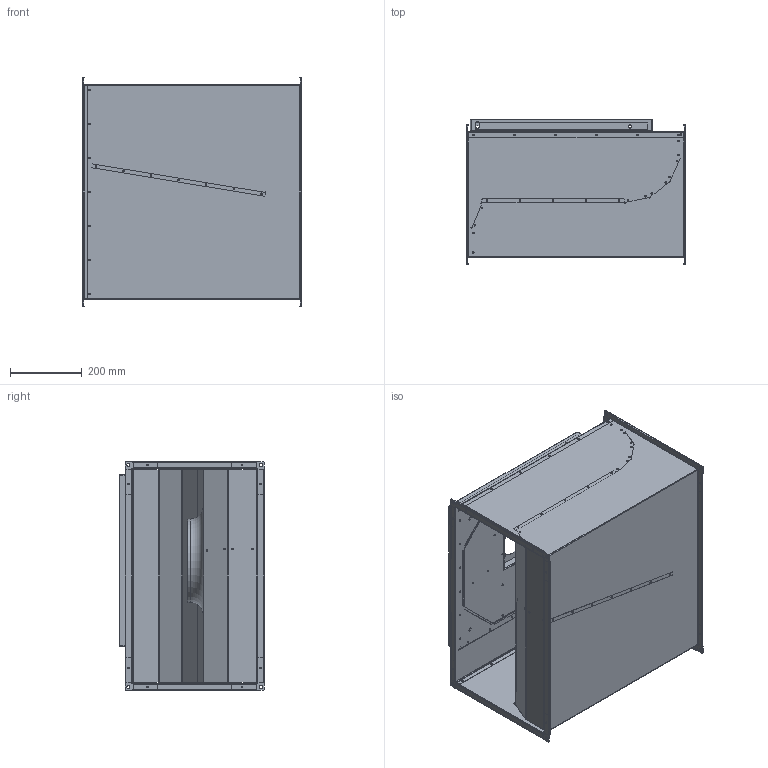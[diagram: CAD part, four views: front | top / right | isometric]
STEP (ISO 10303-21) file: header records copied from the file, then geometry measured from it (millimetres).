
FILE_DESCRIPTION (( 'STEP AP203' ), '1' );
FILE_NAME ('131309-00_KVR06035E430.STEP', '2015-05-08T11:15:03', ( '' ), ( '' ), 'SwSTEP 2.0', 'SolidWorks 2012', '' );
FILE_SCHEMA (( 'CONFIG_CONTROL_DESIGN' ));
Length unit declared in the file: millimetre
Products named in the file (1): 131309-00_KVR06035E430
Bounding box: 610 x 403.2 x 638.4 mm (x, y, z)
Surface area: 4081070 mm2 (no closed solid volume)
Topology: 0 solids, 80 shells, 840 faces, 2830 edges, 1996 vertices
Faces by surface type: cylinder 539, plane 287, bspline 10, torus 4
Entity records: 32703 total; most frequent: CARTESIAN_POINT 6975, DIRECTION 5676, ORIENTED_EDGE 4481, EDGE_CURVE 2830, AXIS2_PLACEMENT_3D 2113, VERTEX_POINT 1996, LINE 1450, VECTOR 1450
